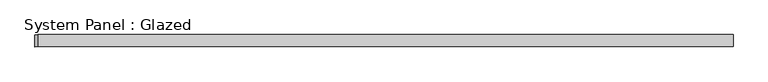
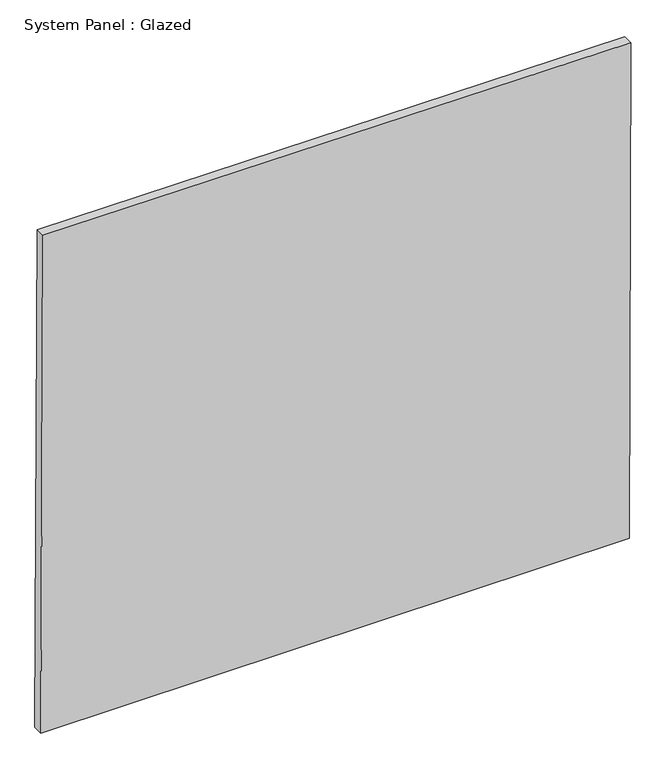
"""IFC4 building model written with IfcOpenShell, lengths in millimetres: plate geometry, System Panel : Glazed."""

import ifcopenshell
import ifcopenshell.guid

model = None  # the IFC model being written
_history = None  # IfcOwnerHistory: only IFC2X3 demands one
_inside = {}  # id of a spatial element -> (the spatial element, [elements in it])
_under = {}  # id of a project, library or spatial element -> (it, [spatial elements below it])
_declared = {}  # id of a project -> (the project, [libraries it declares])
_typed = {}  # id of a type object -> (the type object, [elements of that type])
_made_of = {}  # id of a material, layer set ... -> (it, [elements and type objects made of it])


def new_model(schema):
    """Start an empty IFC model of exactly this schema.

    Asked for "IFC4X3", IfcOpenShell would pick the latest addendum, in which some entities
    have other attributes; the version numbers below select the first issue.
    IFC2X3 requires an IfcOwnerHistory on every rooted entity: one is made here for all.
    """
    global model, _history
    if schema == "IFC4X3":
        model = ifcopenshell.file(schema_version=(4, 3, 0, 0))
    else:
        model = ifcopenshell.file(schema=schema)
    _inside.clear()
    _under.clear()
    _declared.clear()
    _typed.clear()
    _made_of.clear()
    _history = None
    if model.schema == "IFC2X3":
        org = make("IfcOrganization", Name="unknown")
        user = make(
            "IfcPersonAndOrganization",
            ThePerson=make("IfcPerson", FamilyName="unknown"),
            TheOrganization=org,
        )
        app = make(
            "IfcApplication",
            ApplicationDeveloper=org,
            Version="unknown",
            ApplicationFullName="unknown",
            ApplicationIdentifier="unknown",
        )
        _history = make(
            "IfcOwnerHistory",
            OwningUser=user,
            OwningApplication=app,
            ChangeAction="ADDED",
            CreationDate=0,
        )
    return model


def make(cls, **values):
    """One entity of the class cls with the attributes given. An attribute that is None is left unset."""
    return model.create_entity(
        cls, **{name: value for name, value in values.items() if value is not None}
    )


def rooted(cls, **values):
    """An entity with a GlobalId (a new one), such as an element, a storey or a relation."""
    return make(cls, GlobalId=ifcopenshell.guid.new(), OwnerHistory=_history, **values)


def si_unit(unit_type, name, prefix=None):
    """IfcSIUnit, for example si_unit("LENGTHUNIT", "METRE", prefix="MILLI")."""
    return make("IfcSIUnit", UnitType=unit_type, Prefix=prefix, Name=name)


def assignment(units):
    """IfcUnitAssignment: the units of a project."""
    return None if units is None else make("IfcUnitAssignment", Units=units)


def point(xyz):
    """IfcCartesianPoint."""
    return None if xyz is None else make("IfcCartesianPoint", Coordinates=xyz)


def direction(xyz):
    """IfcDirection."""
    return None if xyz is None else make("IfcDirection", DirectionRatios=xyz)


def frame(location, z_axis=None, x_axis=None):
    """IfcAxis2Placement3D, a coordinate frame: its origin and axes. An axis left out is left unset."""
    return make(
        "IfcAxis2Placement3D",
        Location=point(location),
        Axis=direction(z_axis),
        RefDirection=direction(x_axis),
    )


def origin():
    """The frame at (0, 0, 0) with its axes left unset."""
    return frame((0.0, 0.0, 0.0))


def place(relative_to, where):
    """IfcLocalPlacement: puts the frame where relative to a parent placement (None: the world)."""
    return make(
        "IfcLocalPlacement", PlacementRelTo=relative_to, RelativePlacement=where
    )


def context(
    kind, dimensions, precision=None, world=None, true_north=None, identifier=None
):
    """IfcGeometricRepresentationContext, for example the 3D "Model" context."""
    return make(
        "IfcGeometricRepresentationContext",
        ContextIdentifier=identifier,
        ContextType=kind,
        CoordinateSpaceDimension=dimensions,
        Precision=precision,
        WorldCoordinateSystem=world,
        TrueNorth=true_north,
    )


def project(units=None, contexts=None):
    """IfcProject with its units and contexts."""
    return rooted(
        "IfcProject",
        Name="project",
        RepresentationContexts=contexts,
        UnitsInContext=assignment(units),
    )


def spatial(cls, under=None, at=None, **own):
    """A site, building, storey or space (cls), placed at a placement, below another one or the project."""
    s = rooted(cls, ObjectPlacement=at, **own)
    if under is not None:
        _under.setdefault(under.id(), (under, []))[1].append(s)
    return s


def polyline(points):
    """IfcPolyline through the points."""
    return make("IfcPolyline", Points=[point(p) for p in points])


def outline(outer, holes=None, kind="AREA"):
    """IfcArbitraryClosedProfileDef: a profile drawn as a closed curve; with holes, ...WithVoids."""
    if holes is None:
        return make("IfcArbitraryClosedProfileDef", ProfileType=kind, OuterCurve=outer)
    return make(
        "IfcArbitraryProfileDefWithVoids",
        ProfileType=kind,
        OuterCurve=outer,
        InnerCurves=holes,
    )


def extrude(swept, where, along, depth):
    """IfcExtrudedAreaSolid: the profile swept, set in the frame where, extruded along a direction by depth."""
    return make(
        "IfcExtrudedAreaSolid",
        SweptArea=swept,
        Position=where,
        ExtrudedDirection=direction(along),
        Depth=depth,
    )


def shape(context_of_items, identifier, shape_type, items):
    """IfcShapeRepresentation: the items that make up one representation, for example the "Body"."""
    return make(
        "IfcShapeRepresentation",
        ContextOfItems=context_of_items,
        RepresentationIdentifier=identifier,
        RepresentationType=shape_type,
        Items=items,
    )


def source(mapping_origin, context_of_items, identifier, shape_type, items):
    """IfcRepresentationMap: a shape defined once, which mapped items show again and again."""
    return make(
        "IfcRepresentationMap",
        MappingOrigin=mapping_origin,
        MappedRepresentation=shape(context_of_items, identifier, shape_type, items),
    )


def transform(
    local_origin,
    x_axis=None,
    y_axis=None,
    z_axis=None,
    scale=None,
    scale2=None,
    scale3=None,
    uniform=True,
):
    """IfcCartesianTransformationOperator3D, or its non-uniform kind. x_axis, y_axis, z_axis: its Axis1, 2, 3."""
    if uniform:
        return make(
            "IfcCartesianTransformationOperator3D",
            Axis1=direction(x_axis),
            Axis2=direction(y_axis),
            LocalOrigin=point(local_origin),
            Scale=scale,
            Axis3=direction(z_axis),
        )
    return make(
        "IfcCartesianTransformationOperator3DnonUniform",
        Axis1=direction(x_axis),
        Axis2=direction(y_axis),
        LocalOrigin=point(local_origin),
        Scale=scale,
        Axis3=direction(z_axis),
        Scale2=scale2,
        Scale3=scale3,
    )


def mapped(mapping_source, mapping_target):
    """IfcMappedItem: shows the shape of a source again, moved by a transform."""
    return make(
        "IfcMappedItem", MappingSource=mapping_source, MappingTarget=mapping_target
    )


def made_of(thing, what):
    """Note that an element or type object is made of a material, layer set ...; save() writes the relation."""
    if what is not None:
        _made_of.setdefault(what.id(), (what, []))[1].append(thing)
    return thing


def element(
    cls,
    number,
    at=None,
    inside=None,
    cuts=None,
    type_object=None,
    material=None,
    context=None,
    identifier="Body",
    shape_type=None,
    held_by="IfcProductDefinitionShape",
    body=None,
    shapes=None,
    **own,
):
    """One element of the class cls, such as IfcWall. Its Tag is "e" and its number.

    at: its placement. inside: the storey or other place that contains it. cuts: it is an
    opening in that element (IfcRelVoidsElement). A single representation is given by context,
    identifier, shape_type and body (its items); several are given by shapes. held_by: the class
    of the entity that holds the representations. save() writes the other relations.
    """
    e = rooted(cls, Tag="e%d" % number, ObjectPlacement=at, **own)
    if body is not None:
        shapes = [shape(context, identifier, shape_type, body)]
    if shapes is not None:
        e.Representation = make(held_by, Representations=shapes)
    if inside is not None:
        _inside.setdefault(inside.id(), (inside, []))[1].append(e)
    if cuts is not None:
        rooted(
            "IfcRelVoidsElement", RelatingBuildingElement=cuts, RelatedOpeningElement=e
        )
    if type_object is not None:
        _typed.setdefault(type_object.id(), (type_object, []))[1].append(e)
    return made_of(e, material)


def aggregate(whole, parts):
    """IfcRelAggregates: a whole, such as a stair, and the parts it consists of."""
    return rooted("IfcRelAggregates", RelatingObject=whole, RelatedObjects=parts)


def save(model, path):
    """Write the relations noted so far, then the file.

    IfcRelAggregates (storeys below a building ...), IfcRelContainedInSpatialStructure (elements
    in a storey), IfcRelDefinesByType, IfcRelAssociatesMaterial and IfcRelDeclares: one each for
    every whole, place, type object, material and project.
    """
    for whole, parts in _under.values():
        aggregate(whole, parts)
    for where, things in _inside.values():
        rooted(
            "IfcRelContainedInSpatialStructure",
            RelatedElements=things,
            RelatingStructure=where,
        )
    for kind, things in _typed.values():
        rooted("IfcRelDefinesByType", RelatedObjects=things, RelatingType=kind)
    for what, things in _made_of.values():
        rooted("IfcRelAssociatesMaterial", RelatedObjects=things, RelatingMaterial=what)
    for by, libraries in _declared.values():
        rooted("IfcRelDeclares", RelatingContext=by, RelatedDefinitions=libraries)
    model.write(path)


def system_panel_glazed_b97a409a(model_context):
    return source(origin(), model_context, "Body", "SweptSolid", [
        extrude(outline(polyline([(0.0, -722.5564142), (0.0, 719.0408044), (1282.2365968, 722.5564142), (1287.2158002, -717.1857518), (0.0, -722.5564142)])), frame((0.0, -49.5, 0.0), z_axis=(0.0, 1.0, 0.0), x_axis=(0.0, 0.0, 1.0)), (0.0, 0.0, 1.0), 25.0),
    ])


if __name__ == "__main__":
    model = new_model("IFC4")
    model_context = context("Model", 3, world=origin())
    ifc_project = project(units=[si_unit("LENGTHUNIT", "METRE", prefix="MILLI")], contexts=[model_context])
    site = spatial("IfcSite", under=ifc_project)
    building = spatial("IfcBuilding", under=site)
    placement = place(None, origin())
    system_panel_glazed_shape = system_panel_glazed_b97a409a(model_context)
    element("IfcPlate", 1, ObjectType="System Panel : Glazed", at=placement, inside=building, context=model_context, shape_type="MappedRepresentation", body=[
        mapped(system_panel_glazed_shape, transform((0.0, 0.0, 0.0), x_axis=(1.0, 0.0, 0.0), y_axis=(0.0, 1.0, 0.0), z_axis=(0.0, 0.0, 1.0))),
    ])
    save(model, "model.ifc")
